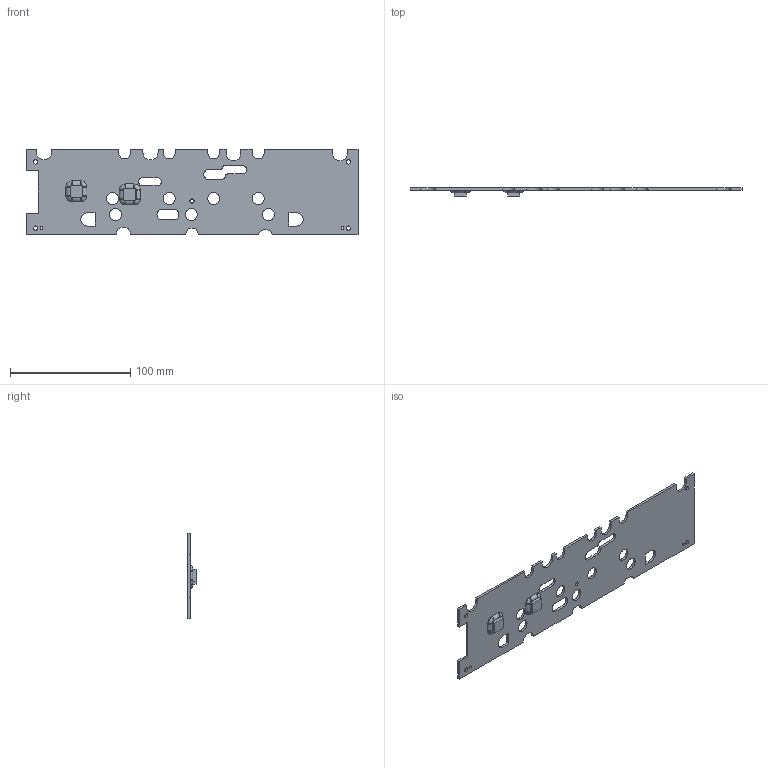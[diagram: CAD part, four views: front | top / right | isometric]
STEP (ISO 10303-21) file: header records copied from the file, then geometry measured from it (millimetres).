
FILE_DESCRIPTION((''),'2;1');
FILE_NAME('HEATSPREADER_AMP_TOP_ASSY_ASM','2020-08-14T',('G6003023'),(''),'PRO/ENGINEER BY PARAMETRIC TECHNOLOGY CORPORATION, 2013150','PRO/ENGINEER BY PARAMETRIC TECHNOLOGY CORPORATION, 2013150','');
FILE_SCHEMA(('CONFIG_CONTROL_DESIGN'));
Length unit declared in the file: millimetre
Products named in the file (3): HEATSPREADER_AMP_TOP; THERMAL_PAD-01_-K5; HEATSPREADER_AMP_TOP_ASSY_ASM
Assembly tree (3 placements, depth 2):
  HEATSPREADER_AMP_TOP_ASSY_ASM
    HEATSPREADER_AMP_TOP
    THERMAL_PAD-01_-K5  x2
Bounding box: 276 x 6.7 x 71 mm (x, y, z)
Volume: 34812.7 mm3; surface area: 37650.4 mm2
Topology: 3 solids, 3 shells, 228 faces, 606 edges, 389 vertices
Faces by surface type: cylinder 98, plane 73, bspline 57
Entity records: 9849 total; most frequent: CARTESIAN_POINT 4442, ORIENTED_EDGE 1188, DIRECTION 1009, EDGE_CURVE 594, VERTEX_POINT 381, AXIS2_PLACEMENT_3D 369, VECTOR 271, LINE 271
